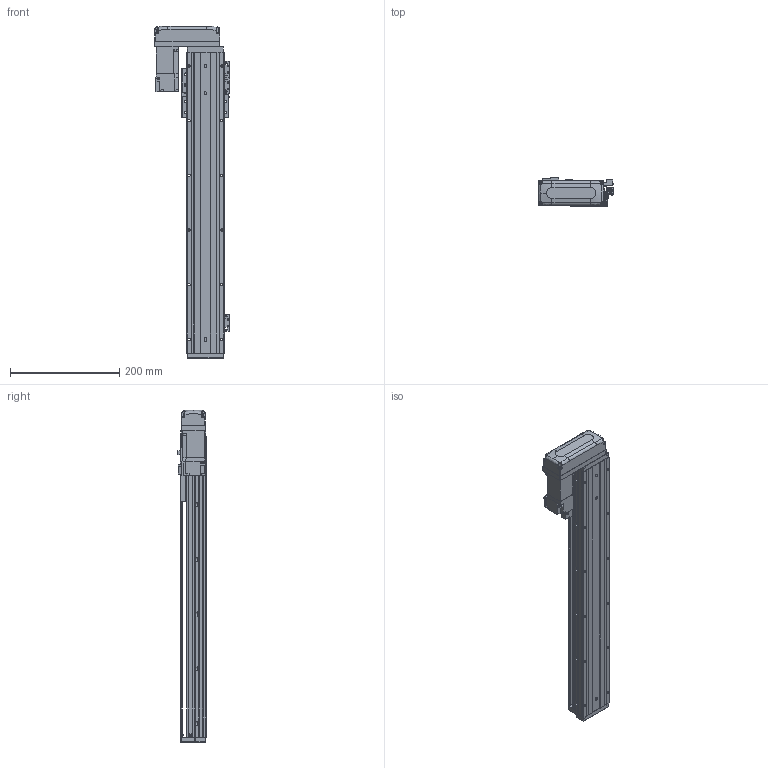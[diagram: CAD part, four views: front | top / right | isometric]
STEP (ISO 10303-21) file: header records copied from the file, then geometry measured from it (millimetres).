
FILE_DESCRIPTION (( 'STEP AP203' ), '1' );
FILE_NAME ('KTHAL60-400-BR-M10-C4L.step', '2022-03-19T08:44:24', ( '微软用户' ), ( '微软中国' ), 'SwSTEP 2.0', 'SolidWorks 2020', '' );
FILE_SCHEMA (( 'CONFIG_CONTROL_DESIGN' ));
Length unit declared in the file: millimetre
Products named in the file (18): KTHLA60-002; CTHA60-021; CTHA60-033; KTHA60-004; GBT 70.1-M4×16; GBT 70.1-M3×15; KTHA60-005; GBT77-2000M3-3; KTHAL60-400-BR-M10-C4L; GB¨uT 70.2-M3¡Á5_M3¡Á6; GBT 70.1-M3℅6; GBT 70.3-M3℅6; CTHA60-016; EE_SX911P_R; HG-KR13（三菱）; KTHA60-001_550; CTHA60-017; CTHA60-015-2_CTHA60-015-2
Assembly tree (51 placements, depth 2):
  KTHAL60-400-BR-M10-C4L
    KTHA60-001_550
    KTHLA60-002
    KTHA60-004
    KTHA60-005
    GB¨uT 70.2-M3¡Á5_M3¡Á6  x5
    GBT 70.3-M3℅6  x4
    EE_SX911P_R  x3
    CTHA60-017  x3
    CTHA60-021  x2
    GBT 70.1-M4×16  x10
    GBT77-2000M3-3  x6
    GBT 70.1-M3℅6  x6
    CTHA60-016
    HG-KR13（三菱）
    CTHA60-015-2_CTHA60-015-2
    CTHA60-033
    GBT 70.1-M3×15  x4
Bounding box: 137.82 x 52.3 x 607 mm (x, y, z)
Volume: 1370947.4 mm3; surface area: 338055.1 mm2
Topology: 54 solids, 54 shells, 2275 faces, 5387 edges, 3305 vertices
Faces by surface type: plane 1300, cylinder 553, cone 284, torus 98, bspline 26, sphere 14
Entity records: 39347 total; most frequent: CARTESIAN_POINT 7448, DIRECTION 6133, ORIENTED_EDGE 5918, EDGE_CURVE 2959, AXIS2_PLACEMENT_3D 2057, VECTOR 2019, LINE 2019, VERTEX_POINT 1854
